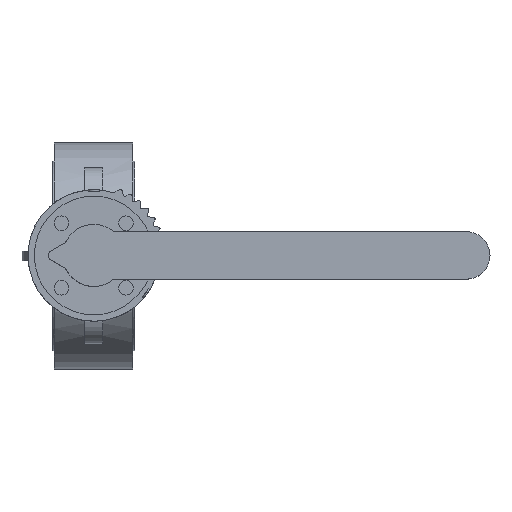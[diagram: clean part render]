
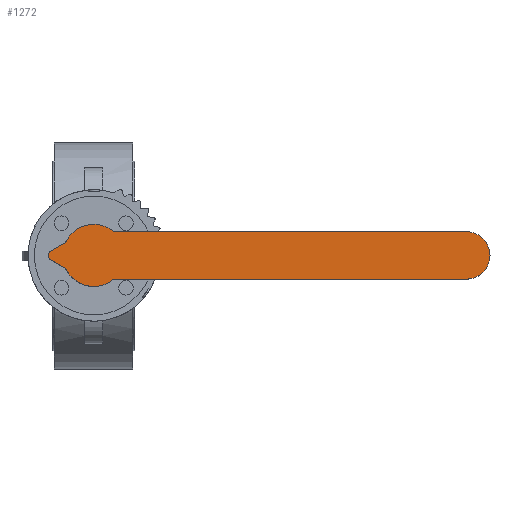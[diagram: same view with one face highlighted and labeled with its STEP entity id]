
A CAD part, top view. The second image highlights one B-rep face of the part: STEP entity #1272.
In plain terms, the highlighted planar face has unit normal (0, 0, 1).
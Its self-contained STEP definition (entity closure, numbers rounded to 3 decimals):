
#1272=ADVANCED_FACE('',(#2770),#2772,.T.);
#2770=FACE_BOUND('',#2771,.T.);
#2771=EDGE_LOOP('',(#3843,#3844,#3845,#3846,#3847,#3848,#3849,#3850,#3851,#3852,
#3853));
#2772=PLANE('',#2773);
#2773=AXIS2_PLACEMENT_3D('',#2774,#2775,#2776);
#2774=CARTESIAN_POINT('',(-1.545,-4.755,188.));
#2775=DIRECTION('',(0.,0.,1.));
#2776=DIRECTION('',(0.951,-0.309,0.));
#3843=ORIENTED_EDGE('',*,*,#4471,.T.);
#3844=ORIENTED_EDGE('',*,*,#4450,.T.);
#3845=ORIENTED_EDGE('',*,*,#4449,.T.);
#3846=ORIENTED_EDGE('',*,*,#4472,.T.);
#3847=ORIENTED_EDGE('',*,*,#4473,.T.);
#3848=ORIENTED_EDGE('',*,*,#4474,.T.);
#3849=ORIENTED_EDGE('',*,*,#4475,.T.);
#3850=ORIENTED_EDGE('',*,*,#4476,.T.);
#3851=ORIENTED_EDGE('',*,*,#4445,.T.);
#3852=ORIENTED_EDGE('',*,*,#4457,.T.);
#3853=ORIENTED_EDGE('',*,*,#4477,.T.);
#4445=EDGE_CURVE('',#5159,#5157,#5160,.T.);
#4449=EDGE_CURVE('',#5167,#5165,#5168,.T.);
#4450=EDGE_CURVE('',#5169,#5167,#5170,.T.);
#4457=EDGE_CURVE('',#5157,#5181,#5182,.T.);
#4471=EDGE_CURVE('',#5208,#5169,#5209,.T.);
#4472=EDGE_CURVE('',#5165,#5210,#5211,.T.);
#4473=EDGE_CURVE('',#5210,#5212,#5213,.T.);
#4474=EDGE_CURVE('',#5212,#5214,#5215,.T.);
#4475=EDGE_CURVE('',#5214,#5216,#5217,.T.);
#4476=EDGE_CURVE('',#5216,#5159,#5218,.T.);
#4477=EDGE_CURVE('',#5181,#5208,#5219,.T.);
#5157=VERTEX_POINT('',#7634);
#5159=VERTEX_POINT('',#7638);
#5160=CIRCLE('',#7639,17.);
#5165=VERTEX_POINT('',#7652);
#5167=VERTEX_POINT('',#7656);
#5168=CIRCLE('',#7657,17.);
#5169=VERTEX_POINT('',#7661);
#5170=CIRCLE('',#7662,17.);
#5181=VERTEX_POINT('',#7691);
#5182=LINE('',#7692,#7693);
#5208=VERTEX_POINT('',#7746);
#5209=LINE('',#7747,#7748);
#5210=VERTEX_POINT('',#7750);
#5211=CIRCLE('',#7751,3.);
#5212=VERTEX_POINT('',#7755);
#5213=LINE('',#7756,#7757);
#5214=VERTEX_POINT('',#7759);
#5215=CIRCLE('',#7760,3.);
#5216=VERTEX_POINT('',#7764);
#5217=LINE('',#7765,#7766);
#5218=CIRCLE('',#7768,3.);
#5219=CIRCLE('',#7772,13.);
#7634=CARTESIAN_POINT('',(10.954,-13.,188.));
#7638=CARTESIAN_POINT('',(-15.113,-7.785,188.));
#7639=AXIS2_PLACEMENT_3D('',#7640,#7641,#7642);
#7640=CARTESIAN_POINT('',(0.,0.,188.));
#7641=DIRECTION('',(0.,0.,1.));
#7642=DIRECTION('',(-0.889,-0.458,0.));
#7652=CARTESIAN_POINT('',(-15.113,7.785,188.));
#7656=CARTESIAN_POINT('',(2.659,16.791,188.));
#7657=AXIS2_PLACEMENT_3D('',#7658,#7659,#7660);
#7658=CARTESIAN_POINT('',(0.,0.,188.));
#7659=DIRECTION('',(0.,0.,1.));
#7660=DIRECTION('',(0.156,0.988,0.));
#7661=CARTESIAN_POINT('',(10.954,13.,188.));
#7662=AXIS2_PLACEMENT_3D('',#7663,#7664,#7665);
#7663=CARTESIAN_POINT('',(0.,0.,188.));
#7664=DIRECTION('',(0.,0.,1.));
#7665=DIRECTION('',(0.644,0.765,0.));
#7691=CARTESIAN_POINT('',(204.,-13.,188.));
#7692=CARTESIAN_POINT('',(10.954,-13.,188.));
#7693=VECTOR('',#7694,1.);
#7694=DIRECTION('',(1.,0.,0.));
#7746=CARTESIAN_POINT('',(204.,13.,188.));
#7747=CARTESIAN_POINT('',(204.,13.,188.));
#7748=VECTOR('',#7749,1.);
#7749=DIRECTION('',(-1.,0.,0.));
#7750=CARTESIAN_POINT('',(-16.317,6.539,188.));
#7751=AXIS2_PLACEMENT_3D('',#7752,#7753,#7754);
#7752=CARTESIAN_POINT('',(-17.78,9.159,188.));
#7753=DIRECTION('',(0.,0.,-1.));
#7754=DIRECTION('',(0.889,-0.458,0.));
#7755=CARTESIAN_POINT('',(-23.338,2.619,188.));
#7756=CARTESIAN_POINT('',(-16.317,6.539,188.));
#7757=VECTOR('',#7758,1.);
#7758=DIRECTION('',(-0.873,-0.487,0.));
#7759=CARTESIAN_POINT('',(-23.338,-2.619,188.));
#7760=AXIS2_PLACEMENT_3D('',#7761,#7762,#7763);
#7761=CARTESIAN_POINT('',(-21.876,0.,188.));
#7762=DIRECTION('',(0.,0.,1.));
#7763=DIRECTION('',(-0.487,0.873,0.));
#7764=CARTESIAN_POINT('',(-16.317,-6.539,188.));
#7765=CARTESIAN_POINT('',(-23.338,-2.619,188.));
#7766=VECTOR('',#7767,1.);
#7767=DIRECTION('',(0.873,-0.487,0.));
#7768=AXIS2_PLACEMENT_3D('',#7769,#7770,#7771);
#7769=CARTESIAN_POINT('',(-17.78,-9.159,188.));
#7770=DIRECTION('',(0.,0.,-1.));
#7771=DIRECTION('',(0.487,0.873,0.));
#7772=AXIS2_PLACEMENT_3D('',#7773,#7774,#7775);
#7773=CARTESIAN_POINT('',(204.,0.,188.));
#7774=DIRECTION('',(0.,0.,1.));
#7775=DIRECTION('',(0.,-1.,0.));
